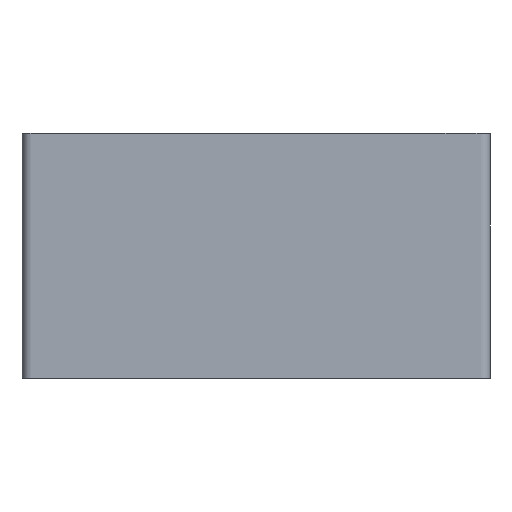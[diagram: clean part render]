
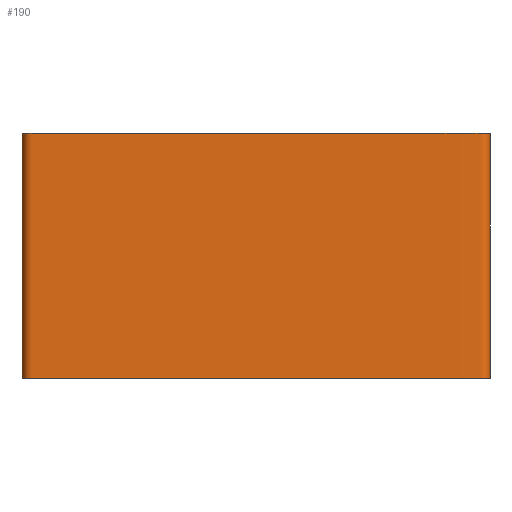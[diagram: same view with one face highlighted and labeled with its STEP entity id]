
A CAD part, top view. The second image highlights one B-rep face of the part: STEP entity #190.
In plain terms, the highlighted free-form (B-spline) face has degree [1, 2] with [2, 15] control points.
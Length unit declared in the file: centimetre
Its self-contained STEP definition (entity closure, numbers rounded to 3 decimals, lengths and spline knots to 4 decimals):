
#190=ADVANCED_FACE($,(#330),#1495,.T.);
#330=FACE_OUTER_BOUND($,#470,.T.);
#470=EDGE_LOOP($,(#846,#847,#848,#849));
#846=ORIENTED_EDGE($,*,*,#1179,.T.);
#847=ORIENTED_EDGE($,*,*,#1184,.T.);
#848=ORIENTED_EDGE($,*,*,#1182,.F.);
#849=ORIENTED_EDGE($,*,*,#1185,.F.);
#1179=EDGE_CURVE($,#1362,#1361,#1601,.T.);
#1182=EDGE_CURVE($,#1365,#1364,#1603,.T.);
#1184=EDGE_CURVE($,#1361,#1364,#1726,.T.);
#1185=EDGE_CURVE($,#1362,#1365,#1727,.T.);
#1361=VERTEX_POINT($,#3457);
#1362=VERTEX_POINT($,#3458);
#1364=VERTEX_POINT($,#3460);
#1365=VERTEX_POINT($,#3461);
#1495=(
BOUNDED_SURFACE()
B_SPLINE_SURFACE(1,2,((#3423,#3424,#3425,#3426,#3427,#3428,#3429,#3430,#3431,
#3432,#3433,#3434,#3435,#3436,#3437),(#3438,#3439,#3440,#3441,#3442,#3443,
#3444,#3445,#3446,#3447,#3448,#3449,#3450,#3451,#3452)),.UNSPECIFIED.,.F.,
.F.,.F.)
B_SPLINE_SURFACE_WITH_KNOTS((2,2),(3,2,2,2,2,2,2,3),(0.,68.),(-187.9124,
-158.6124,-156.2562,-98.9562,-88.9562,
-31.6562,-29.3,0.),.UNSPECIFIED.)
GEOMETRIC_REPRESENTATION_ITEM()
RATIONAL_B_SPLINE_SURFACE(((1.,1.,1.,0.707,1.,1.,1.,1.,1.,1.,
1.,0.707,1.,1.,1.),(1.,1.,1.,0.707,1.,1.,1.,1.,1.,
1.,1.,0.707,1.,1.,1.)))
REPRESENTATION_ITEM($)
SURFACE()
);
#1601=(
BOUNDED_CURVE()
B_SPLINE_CURVE(2,(#3337,#3338,#3339,#3340,#3341,#3342,#3343,#3344,#3345,
#3346,#3347,#3348,#3349,#3350,#3351),.UNSPECIFIED.,.F.,.F.)
B_SPLINE_CURVE_WITH_KNOTS((3,2,2,2,2,2,2,3),(0.,29.3,31.6562,88.9562,
98.9562,156.2562,158.6124,187.9124),.UNSPECIFIED.)
CURVE()
GEOMETRIC_REPRESENTATION_ITEM()
RATIONAL_B_SPLINE_CURVE((1.,1.,1.,0.707,1.,1.,1.,1.,1.,1.,1.,
0.707,1.,1.,1.))
REPRESENTATION_ITEM($)
);
#1603=(
BOUNDED_CURVE()
B_SPLINE_CURVE(2,(#3369,#3370,#3371,#3372,#3373,#3374,#3375,#3376,#3377,
#3378,#3379,#3380,#3381,#3382,#3383),.UNSPECIFIED.,.F.,.F.)
B_SPLINE_CURVE_WITH_KNOTS((3,2,2,2,2,2,2,3),(0.,29.3,31.6562,88.9562,
98.9562,156.2562,158.6124,187.9124),.UNSPECIFIED.)
CURVE()
GEOMETRIC_REPRESENTATION_ITEM()
RATIONAL_B_SPLINE_CURVE((1.,1.,1.,0.707,1.,1.,1.,1.,1.,1.,1.,
0.707,1.,1.,1.))
REPRESENTATION_ITEM($)
);
#1726=B_SPLINE_CURVE_WITH_KNOTS($,1,(#3386,#3387),.UNSPECIFIED.,.F.,.F.,
(2,2),(0.,68.),.UNSPECIFIED.);
#1727=B_SPLINE_CURVE_WITH_KNOTS($,1,(#3388,#3389),.UNSPECIFIED.,.F.,.F.,
(2,2),(0.,68.),.UNSPECIFIED.);
#3337=CARTESIAN_POINT($,(0.,0.,0.));
#3338=CARTESIAN_POINT($,(0.,0.,14.65));
#3339=CARTESIAN_POINT($,(0.,0.,29.3));
#3340=CARTESIAN_POINT($,(0.,0.,32.));
#3341=CARTESIAN_POINT($,(2.7,0.,32.));
#3342=CARTESIAN_POINT($,(31.35,0.,32.));
#3343=CARTESIAN_POINT($,(60.,0.,32.));
#3344=CARTESIAN_POINT($,(65.,0.,32.));
#3345=CARTESIAN_POINT($,(70.,0.,32.));
#3346=CARTESIAN_POINT($,(98.65,0.,32.));
#3347=CARTESIAN_POINT($,(127.3,0.,32.));
#3348=CARTESIAN_POINT($,(130.,0.,32.));
#3349=CARTESIAN_POINT($,(130.,0.,29.3));
#3350=CARTESIAN_POINT($,(130.,0.,14.65));
#3351=CARTESIAN_POINT($,(130.,0.,0.));
#3369=CARTESIAN_POINT($,(0.,68.,0.));
#3370=CARTESIAN_POINT($,(0.,68.,14.65));
#3371=CARTESIAN_POINT($,(0.,68.,29.3));
#3372=CARTESIAN_POINT($,(0.,68.,32.));
#3373=CARTESIAN_POINT($,(2.7,68.,32.));
#3374=CARTESIAN_POINT($,(31.35,68.,32.));
#3375=CARTESIAN_POINT($,(60.,68.,32.));
#3376=CARTESIAN_POINT($,(65.,68.,32.));
#3377=CARTESIAN_POINT($,(70.,68.,32.));
#3378=CARTESIAN_POINT($,(98.65,68.,32.));
#3379=CARTESIAN_POINT($,(127.3,68.,32.));
#3380=CARTESIAN_POINT($,(130.,68.,32.));
#3381=CARTESIAN_POINT($,(130.,68.,29.3));
#3382=CARTESIAN_POINT($,(130.,68.,14.65));
#3383=CARTESIAN_POINT($,(130.,68.,0.));
#3386=CARTESIAN_POINT($,(130.,0.,0.));
#3387=CARTESIAN_POINT($,(130.,68.,0.));
#3388=CARTESIAN_POINT($,(0.,0.,0.));
#3389=CARTESIAN_POINT($,(0.,68.,0.));
#3423=CARTESIAN_POINT($,(130.,0.,0.));
#3424=CARTESIAN_POINT($,(130.,0.,14.65));
#3425=CARTESIAN_POINT($,(130.,0.,29.3));
#3426=CARTESIAN_POINT($,(130.,0.,32.));
#3427=CARTESIAN_POINT($,(127.3,0.,32.));
#3428=CARTESIAN_POINT($,(98.65,0.,32.));
#3429=CARTESIAN_POINT($,(70.,0.,32.));
#3430=CARTESIAN_POINT($,(65.,0.,32.));
#3431=CARTESIAN_POINT($,(60.,0.,32.));
#3432=CARTESIAN_POINT($,(31.35,0.,32.));
#3433=CARTESIAN_POINT($,(2.7,0.,32.));
#3434=CARTESIAN_POINT($,(0.,0.,32.));
#3435=CARTESIAN_POINT($,(0.,0.,29.3));
#3436=CARTESIAN_POINT($,(0.,0.,14.65));
#3437=CARTESIAN_POINT($,(0.,0.,0.));
#3438=CARTESIAN_POINT($,(130.,68.,0.));
#3439=CARTESIAN_POINT($,(130.,68.,14.65));
#3440=CARTESIAN_POINT($,(130.,68.,29.3));
#3441=CARTESIAN_POINT($,(130.,68.,32.));
#3442=CARTESIAN_POINT($,(127.3,68.,32.));
#3443=CARTESIAN_POINT($,(98.65,68.,32.));
#3444=CARTESIAN_POINT($,(70.,68.,32.));
#3445=CARTESIAN_POINT($,(65.,68.,32.));
#3446=CARTESIAN_POINT($,(60.,68.,32.));
#3447=CARTESIAN_POINT($,(31.35,68.,32.));
#3448=CARTESIAN_POINT($,(2.7,68.,32.));
#3449=CARTESIAN_POINT($,(0.,68.,32.));
#3450=CARTESIAN_POINT($,(0.,68.,29.3));
#3451=CARTESIAN_POINT($,(0.,68.,14.65));
#3452=CARTESIAN_POINT($,(0.,68.,0.));
#3457=CARTESIAN_POINT($,(130.,0.,0.));
#3458=CARTESIAN_POINT($,(0.,0.,0.));
#3460=CARTESIAN_POINT($,(130.,68.,0.));
#3461=CARTESIAN_POINT($,(0.,68.,0.));
